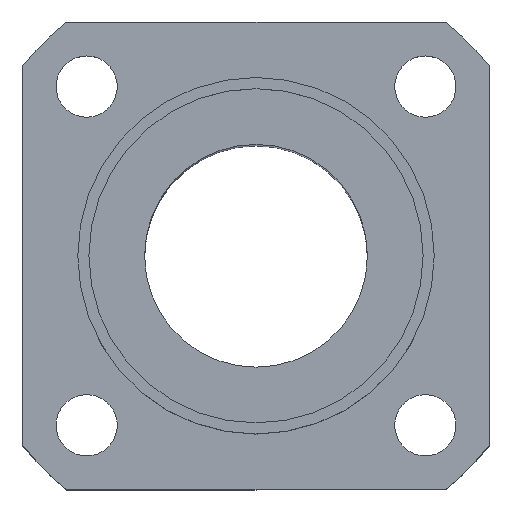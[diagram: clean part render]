
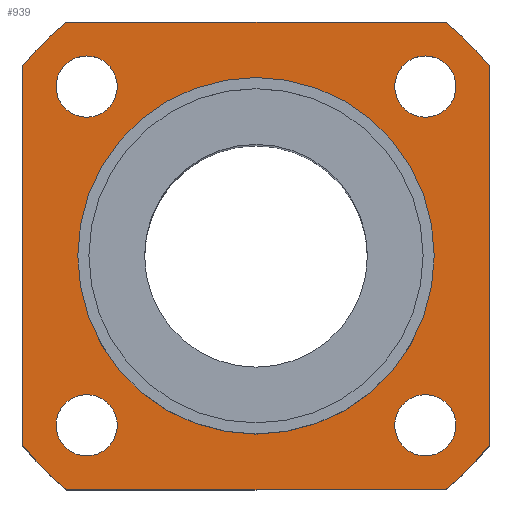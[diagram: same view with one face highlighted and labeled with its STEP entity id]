
A CAD part, top view. The second image highlights one B-rep face of the part: STEP entity #939.
In plain terms, the highlighted planar face has unit normal (0, 0, 1).
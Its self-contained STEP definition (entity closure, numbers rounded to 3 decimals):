
#49=CARTESIAN_POINT('',(-18.58,9.934,72.0));
#50=VERTEX_POINT('',#49);
#59=CARTESIAN_POINT('',(13.42,9.934,72.));
#60=VERTEX_POINT('',#59);
#61=CARTESIAN_POINT('',(-2.58,9.934,72.));
#62=DIRECTION('',(0.0,0.0,1.0));
#63=DIRECTION('',(-1.0,0.0,0.0));
#64=AXIS2_PLACEMENT_3D('',#61,#62,#63);
#65=CIRCLE('',#64,16.0);
#66=EDGE_CURVE('',#50,#60,#65,.T.);
#259=CARTESIAN_POINT('',(-15.032,25.137,72.));
#260=VERTEX_POINT('',#259);
#269=CARTESIAN_POINT('',(-20.532,25.137,72.));
#270=VERTEX_POINT('',#269);
#271=CARTESIAN_POINT('',(-17.782,25.137,72.));
#272=DIRECTION('',(0.0,0.0,-1.0));
#273=DIRECTION('',(1.0,0.0,0.0));
#274=AXIS2_PLACEMENT_3D('',#271,#272,#273);
#275=CIRCLE('',#274,2.75);
#276=EDGE_CURVE('',#270,#260,#275,.T.);
#343=CARTESIAN_POINT('',(12.623,22.387,72.));
#344=VERTEX_POINT('',#343);
#353=CARTESIAN_POINT('',(12.623,27.887,72.));
#354=VERTEX_POINT('',#353);
#355=CARTESIAN_POINT('',(12.623,25.137,72.));
#356=DIRECTION('',(0.0,0.0,-1.0));
#357=DIRECTION('',(0.0,-1.0,0.0));
#358=AXIS2_PLACEMENT_3D('',#355,#356,#357);
#359=CIRCLE('',#358,2.75);
#360=EDGE_CURVE('',#354,#344,#359,.T.);
#427=CARTESIAN_POINT('',(9.873,-5.269,72.));
#428=VERTEX_POINT('',#427);
#437=CARTESIAN_POINT('',(15.373,-5.269,72.));
#438=VERTEX_POINT('',#437);
#439=CARTESIAN_POINT('',(12.623,-5.269,72.));
#440=DIRECTION('',(0.0,0.0,-1.0));
#441=DIRECTION('',(-1.0,0.0,0.0));
#442=AXIS2_PLACEMENT_3D('',#439,#440,#441);
#443=CIRCLE('',#442,2.75);
#444=EDGE_CURVE('',#438,#428,#443,.T.);
#511=CARTESIAN_POINT('',(-17.782,-2.519,72.));
#512=VERTEX_POINT('',#511);
#521=CARTESIAN_POINT('',(-17.782,-8.019,72.));
#522=VERTEX_POINT('',#521);
#523=CARTESIAN_POINT('',(-17.782,-5.269,72.));
#524=DIRECTION('',(0.0,0.0,-1.0));
#525=DIRECTION('',(0.0,1.0,0.0));
#526=AXIS2_PLACEMENT_3D('',#523,#524,#525);
#527=CIRCLE('',#526,2.75);
#528=EDGE_CURVE('',#522,#512,#527,.T.);
#642=CARTESIAN_POINT('',(-17.782,-5.269,72.));
#643=DIRECTION('',(0.0,0.0,-1.0));
#644=DIRECTION('',(0.0,1.0,0.0));
#645=AXIS2_PLACEMENT_3D('',#642,#643,#644);
#646=CIRCLE('',#645,2.75);
#647=EDGE_CURVE('',#512,#522,#646,.T.);
#704=CARTESIAN_POINT('',(12.623,-5.269,72.));
#705=DIRECTION('',(0.0,0.0,-1.0));
#706=DIRECTION('',(-1.0,0.0,0.0));
#707=AXIS2_PLACEMENT_3D('',#704,#705,#706);
#708=CIRCLE('',#707,2.75);
#709=EDGE_CURVE('',#428,#438,#708,.T.);
#766=CARTESIAN_POINT('',(12.623,25.137,72.));
#767=DIRECTION('',(0.0,0.0,-1.0));
#768=DIRECTION('',(0.0,-1.0,0.0));
#769=AXIS2_PLACEMENT_3D('',#766,#767,#768);
#770=CIRCLE('',#769,2.75);
#771=EDGE_CURVE('',#344,#354,#770,.T.);
#828=CARTESIAN_POINT('',(-17.782,25.137,72.));
#829=DIRECTION('',(0.0,0.0,-1.0));
#830=DIRECTION('',(1.0,0.0,0.0));
#831=AXIS2_PLACEMENT_3D('',#828,#829,#830);
#832=CIRCLE('',#831,2.75);
#833=EDGE_CURVE('',#260,#270,#832,.T.);
#838=CARTESIAN_POINT('',(-2.58,9.934,72.));
#839=DIRECTION('',(0.0,0.0,1.0));
#840=DIRECTION('',(1.0,0.0,0.0));
#841=AXIS2_PLACEMENT_3D('',#838,#839,#840);
#842=PLANE('',#841);
#843=CARTESIAN_POINT('',(14.391,-11.066,72.0));
#844=VERTEX_POINT('',#843);
#845=CARTESIAN_POINT('',(-19.55,-11.066,72.0));
#846=VERTEX_POINT('',#845);
#847=CARTESIAN_POINT('',(14.391,-11.066,72.0));
#848=DIRECTION('',(-1.0,0.0,0.0));
#849=VECTOR('',#848,33.941);
#850=LINE('',#847,#849);
#851=EDGE_CURVE('',#844,#846,#850,.T.);
#852=ORIENTED_EDGE('',*,*,#851,.F.);
#853=CARTESIAN_POINT('',(18.42,-7.036,72.0));
#854=VERTEX_POINT('',#853);
#855=CARTESIAN_POINT('',(-2.58,9.934,72.0));
#856=DIRECTION('',(0.0,0.0,-1.0));
#857=DIRECTION('',(-0.629,0.778,0.0));
#858=AXIS2_PLACEMENT_3D('',#855,#856,#857);
#859=CIRCLE('',#858,27.0);
#860=EDGE_CURVE('',#854,#844,#859,.T.);
#861=ORIENTED_EDGE('',*,*,#860,.F.);
#862=CARTESIAN_POINT('',(18.42,26.905,72.0));
#863=VERTEX_POINT('',#862);
#864=CARTESIAN_POINT('',(18.42,26.905,72.0));
#865=DIRECTION('',(0.0,-1.0,0.0));
#866=VECTOR('',#865,33.941);
#867=LINE('',#864,#866);
#868=EDGE_CURVE('',#863,#854,#867,.T.);
#869=ORIENTED_EDGE('',*,*,#868,.F.);
#870=CARTESIAN_POINT('',(14.391,30.934,72.0));
#871=VERTEX_POINT('',#870);
#872=CARTESIAN_POINT('',(-2.58,9.934,72.0));
#873=DIRECTION('',(0.0,0.0,-1.));
#874=DIRECTION('',(-0.778,-0.629,0.0));
#875=AXIS2_PLACEMENT_3D('',#872,#873,#874);
#876=CIRCLE('',#875,27.);
#877=EDGE_CURVE('',#871,#863,#876,.T.);
#878=ORIENTED_EDGE('',*,*,#877,.F.);
#879=CARTESIAN_POINT('',(-19.55,30.934,72.0));
#880=VERTEX_POINT('',#879);
#881=CARTESIAN_POINT('',(-19.55,30.934,72.0));
#882=DIRECTION('',(1.0,0.0,0.0));
#883=VECTOR('',#882,33.941);
#884=LINE('',#881,#883);
#885=EDGE_CURVE('',#880,#871,#884,.T.);
#886=ORIENTED_EDGE('',*,*,#885,.F.);
#887=CARTESIAN_POINT('',(-23.58,26.905,72.0));
#888=VERTEX_POINT('',#887);
#889=CARTESIAN_POINT('',(-2.58,9.934,72.0));
#890=DIRECTION('',(0.0,0.0,-1.0));
#891=DIRECTION('',(0.629,-0.778,0.0));
#892=AXIS2_PLACEMENT_3D('',#889,#890,#891);
#893=CIRCLE('',#892,27.0);
#894=EDGE_CURVE('',#888,#880,#893,.T.);
#895=ORIENTED_EDGE('',*,*,#894,.F.);
#896=CARTESIAN_POINT('',(-23.58,-7.036,72.0));
#897=VERTEX_POINT('',#896);
#898=CARTESIAN_POINT('',(-23.58,-7.036,72.0));
#899=DIRECTION('',(0.0,1.0,0.0));
#900=VECTOR('',#899,33.941);
#901=LINE('',#898,#900);
#902=EDGE_CURVE('',#897,#888,#901,.T.);
#903=ORIENTED_EDGE('',*,*,#902,.F.);
#904=CARTESIAN_POINT('',(-2.58,9.934,72.0));
#905=DIRECTION('',(0.0,0.0,-1.));
#906=DIRECTION('',(0.778,0.629,0.0));
#907=AXIS2_PLACEMENT_3D('',#904,#905,#906);
#908=CIRCLE('',#907,27.);
#909=EDGE_CURVE('',#846,#897,#908,.T.);
#910=ORIENTED_EDGE('',*,*,#909,.F.);
#911=EDGE_LOOP('',(#852,#861,#869,#878,#886,#895,#903,#910));
#912=FACE_OUTER_BOUND('',#911,.T.);
#913=ORIENTED_EDGE('',*,*,#528,.T.);
#914=ORIENTED_EDGE('',*,*,#647,.T.);
#915=EDGE_LOOP('',(#913,#914));
#916=FACE_BOUND('',#915,.T.);
#917=ORIENTED_EDGE('',*,*,#444,.T.);
#918=ORIENTED_EDGE('',*,*,#709,.T.);
#919=EDGE_LOOP('',(#917,#918));
#920=FACE_BOUND('',#919,.T.);
#921=ORIENTED_EDGE('',*,*,#360,.T.);
#922=ORIENTED_EDGE('',*,*,#771,.T.);
#923=EDGE_LOOP('',(#921,#922));
#924=FACE_BOUND('',#923,.T.);
#925=ORIENTED_EDGE('',*,*,#276,.T.);
#926=ORIENTED_EDGE('',*,*,#833,.T.);
#927=EDGE_LOOP('',(#925,#926));
#928=FACE_BOUND('',#927,.T.);
#929=CARTESIAN_POINT('',(-2.58,9.934,72.));
#930=DIRECTION('',(0.0,0.0,1.0));
#931=DIRECTION('',(-1.0,0.0,0.0));
#932=AXIS2_PLACEMENT_3D('',#929,#930,#931);
#933=CIRCLE('',#932,16.0);
#934=EDGE_CURVE('',#60,#50,#933,.T.);
#935=ORIENTED_EDGE('',*,*,#934,.F.);
#936=ORIENTED_EDGE('',*,*,#66,.F.);
#937=EDGE_LOOP('',(#935,#936));
#938=FACE_BOUND('',#937,.T.);
#939=ADVANCED_FACE('',(#912,#916,#920,#924,#928,#938),#842,.T.);
